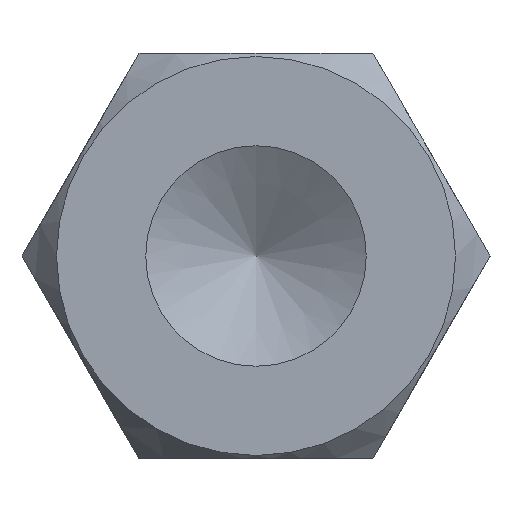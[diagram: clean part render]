
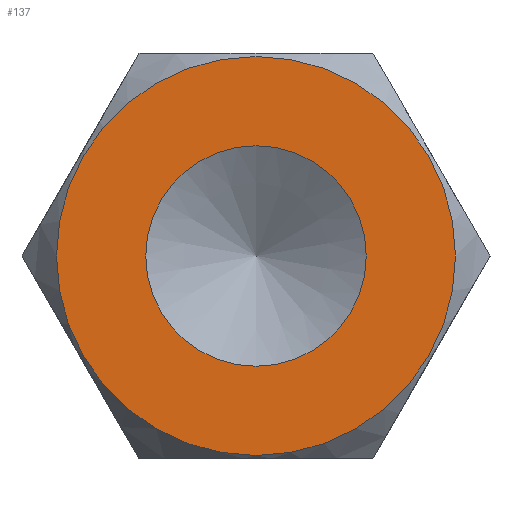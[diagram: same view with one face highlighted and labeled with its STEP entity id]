
A CAD part, front view. The second image highlights one B-rep face of the part: STEP entity #137.
In plain terms, the highlighted planar face has unit normal (0, -1, 0).
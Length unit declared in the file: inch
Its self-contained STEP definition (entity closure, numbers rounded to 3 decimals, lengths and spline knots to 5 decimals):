
#14 = AXIS2_PLACEMENT_3D ( 'NONE', #1037, #1035, #1034 ) ;
#20 = AXIS2_PLACEMENT_3D ( 'NONE', #866, #865, #864 ) ;
#67 = AXIS2_PLACEMENT_3D ( 'NONE', #882, #875, #874 ) ;
#137 = ADVANCED_FACE ( 'NONE', ( #451, #450 ), #1036, .F. ) ;
#234 = EDGE_LOOP ( 'NONE', ( #294 ) ) ;
#239 = EDGE_LOOP ( 'NONE', ( #291 ) ) ;
#291 = ORIENTED_EDGE ( 'NONE', *, *, #1202, .F. ) ;
#294 = ORIENTED_EDGE ( 'NONE', *, *, #1206, .F. ) ;
#450 = FACE_OUTER_BOUND ( 'NONE', #239, .T. ) ;
#451 = FACE_BOUND ( 'NONE', #234, .T. ) ;
#532 = CIRCLE ( 'NONE', #67, 0.12305 ) ;
#538 = CIRCLE ( 'NONE', #20, 0.068 ) ;
#665 = CARTESIAN_POINT ( 'NONE',  ( 0., 0., -0.068 ) ) ;
#667 = VERTEX_POINT ( 'NONE', #665 ) ;
#673 = CARTESIAN_POINT ( 'NONE',  ( 0., 0., 0.12305 ) ) ;
#674 = VERTEX_POINT ( 'NONE', #673 ) ;
#864 = DIRECTION ( 'NONE',  ( 0., 0., -1. ) ) ;
#865 = DIRECTION ( 'NONE',  ( 0., -1., 0. ) ) ;
#866 = CARTESIAN_POINT ( 'NONE',  ( 0., 0., 0. ) ) ;
#874 = DIRECTION ( 'NONE',  ( 0., 0., 1. ) ) ;
#875 = DIRECTION ( 'NONE',  ( 0., 1., 0. ) ) ;
#882 = CARTESIAN_POINT ( 'NONE',  ( 0., 0., 0. ) ) ;
#1034 = DIRECTION ( 'NONE',  ( 0., 0., 1. ) ) ;
#1035 = DIRECTION ( 'NONE',  ( 0., 1., 0. ) ) ;
#1036 = PLANE ( 'NONE',  #14 ) ;
#1037 = CARTESIAN_POINT ( 'NONE',  ( 0.14434, 0., 0. ) ) ;
#1202 = EDGE_CURVE ( 'NONE', #674, #674, #532, .T. ) ;
#1206 = EDGE_CURVE ( 'NONE', #667, #667, #538, .T. ) ;
